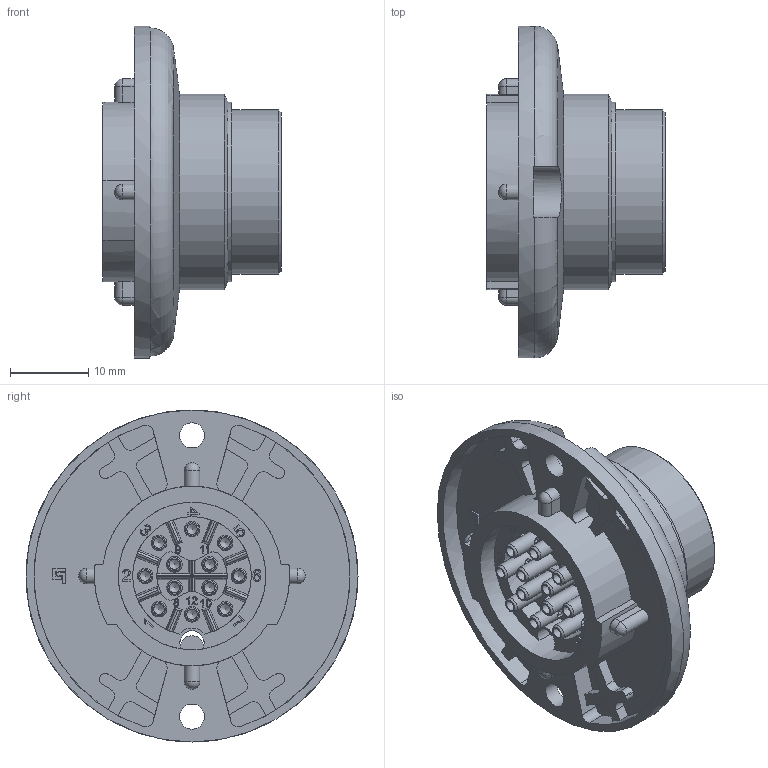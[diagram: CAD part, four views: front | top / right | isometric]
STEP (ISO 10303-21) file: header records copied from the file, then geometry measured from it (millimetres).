
FILE_DESCRIPTION(/* description */ (''),/* implementation_level */ '2;1');
FILE_NAME(/* name */ '09 0447 00 12 001_00.stp',/* time_stamp */ '2014-09-01T14:55:38+02:00',/* author */ (''),/* organization */ (''),/* preprocessor_version */ 'ST-DEVELOPER v14',/* originating_system */ 'SIEMENS PLM Software NX 8.0',/* authorisation */ '');
FILE_SCHEMA (('AP203_CONFIGURATION_CONTROLLED_3D_DESIGN_OF_MECHANICAL_PARTS_AND_ASSEMBLIES_MIM_LF { 1 0 10303 403 2 1 2}'));
Length unit declared in the file: millimetre
Products named in the file (1): cerl1418923883ag
Bounding box: 22.8 x 42.5 x 42.5 mm (x, y, z)
Volume: 8820.8 mm3; surface area: 7580.8 mm2
Topology: 1 solids, 1 shells, 781 faces, 2136 edges, 1404 vertices
Faces by surface type: plane 352, extrusion 234, cylinder 140, cone 48, sphere 5, torus 2
Full cylindrical faces by diameter (mm): 1.2 x12, 1.35 x12, 1.49 x12, 2 x12, 3.2 x2, 18.3 x1, 18.9 x1, 21 x1, 23 x1, 25 x1, 42.5 x1
Entity records: 28272 total; most frequent: CARTESIAN_POINT 10544, ORIENTED_EDGE 3904, DIRECTION 2795, EDGE_CURVE 1952, VERTEX_POINT 1347, B_SPLINE_CURVE_WITH_KNOTS 1052, VECTOR 1037, EDGE_LOOP 973
